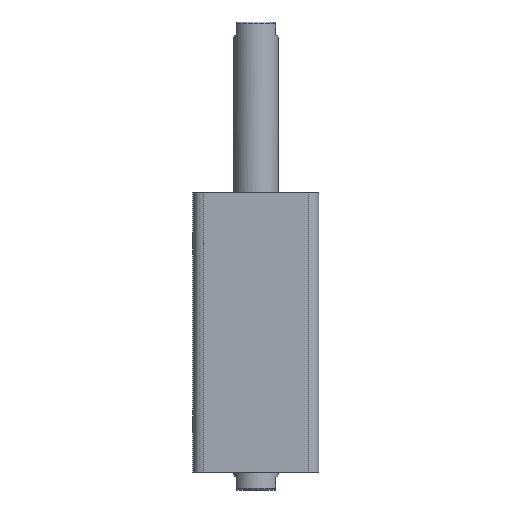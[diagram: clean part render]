
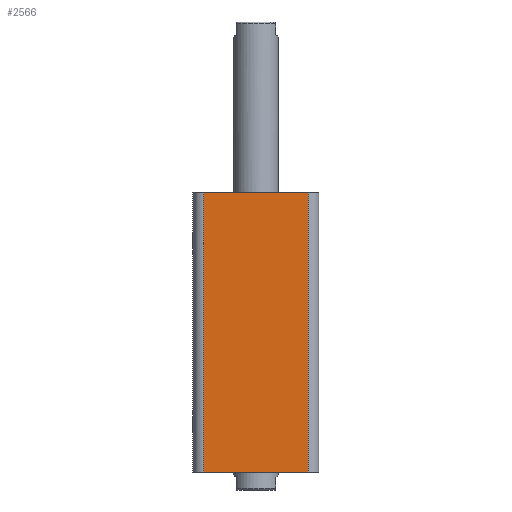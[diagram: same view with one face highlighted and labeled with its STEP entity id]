
A CAD part, front view. The second image highlights one B-rep face of the part: STEP entity #2566.
In plain terms, the highlighted planar face has unit normal (0, -1, 0).
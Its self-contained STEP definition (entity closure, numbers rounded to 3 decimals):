
#430 = FACE_OUTER_BOUND ( 'NONE', #2716, .T. ) ;
#1292 = CARTESIAN_POINT ( 'NONE',  ( -35., -35., 155. ) ) ;
#1294 = PLANE ( 'NONE',  #2445 ) ;
#1296 = DIRECTION ( 'NONE',  ( 0., 1., 0. ) ) ;
#1297 = DIRECTION ( 'NONE',  ( 0., 0., 1. ) ) ;
#1642 = CARTESIAN_POINT ( 'NONE',  ( 29., -35., 0. ) ) ;
#1645 = CARTESIAN_POINT ( 'NONE',  ( 29., -35., 155. ) ) ;
#1651 = CARTESIAN_POINT ( 'NONE',  ( -29., -35., 0. ) ) ;
#1656 = CARTESIAN_POINT ( 'NONE',  ( -29., -35., 155. ) ) ;
#1995 = DIRECTION ( 'NONE',  ( 0., 0., 1. ) ) ;
#2012 = CARTESIAN_POINT ( 'NONE',  ( -35., -35., 0. ) ) ;
#2013 = CARTESIAN_POINT ( 'NONE',  ( 29., -35., 155. ) ) ;
#2017 = DIRECTION ( 'NONE',  ( 1., 0., 0. ) ) ;
#2018 = CARTESIAN_POINT ( 'NONE',  ( -29., -35., 155. ) ) ;
#2019 = DIRECTION ( 'NONE',  ( 0., 0., -1. ) ) ;
#2020 = CARTESIAN_POINT ( 'NONE',  ( -35., -35., 155. ) ) ;
#2021 = DIRECTION ( 'NONE',  ( 1., 0., 0. ) ) ;
#2142 = EDGE_CURVE ( 'NONE', #2855, #2858, #3183, .T. ) ;
#2143 = EDGE_CURVE ( 'NONE', #2864, #2855, #3184, .T. ) ;
#2144 = EDGE_CURVE ( 'NONE', #2869, #2864, #3187, .T. ) ;
#2145 = EDGE_CURVE ( 'NONE', #2869, #2858, #3189, .T. ) ;
#2445 = AXIS2_PLACEMENT_3D ( 'NONE', #1292, #1296, #1297 ) ;
#2566 = ADVANCED_FACE ( 'NONE', ( #430 ), #1294, .F. ) ;
#2716 = EDGE_LOOP ( 'NONE', ( #3069, #3068, #3067, #3066 ) ) ;
#2855 = VERTEX_POINT ( 'NONE', #1642 ) ;
#2858 = VERTEX_POINT ( 'NONE', #1645 ) ;
#2864 = VERTEX_POINT ( 'NONE', #1651 ) ;
#2869 = VERTEX_POINT ( 'NONE', #1656 ) ;
#3066 = ORIENTED_EDGE ( 'NONE', *, *, #2142, .T. ) ;
#3067 = ORIENTED_EDGE ( 'NONE', *, *, #2143, .T. ) ;
#3068 = ORIENTED_EDGE ( 'NONE', *, *, #2144, .T. ) ;
#3069 = ORIENTED_EDGE ( 'NONE', *, *, #2145, .F. ) ;
#3183 = LINE ( 'NONE', #2013, #3186 ) ;
#3184 = LINE ( 'NONE', #2012, #3188 ) ;
#3186 = VECTOR ( 'NONE', #1995, 1000. ) ;
#3187 = LINE ( 'NONE', #2018, #3190 ) ;
#3188 = VECTOR ( 'NONE', #2017, 1000. ) ;
#3189 = LINE ( 'NONE', #2020, #3192 ) ;
#3190 = VECTOR ( 'NONE', #2019, 1000. ) ;
#3192 = VECTOR ( 'NONE', #2021, 1000. ) ;
